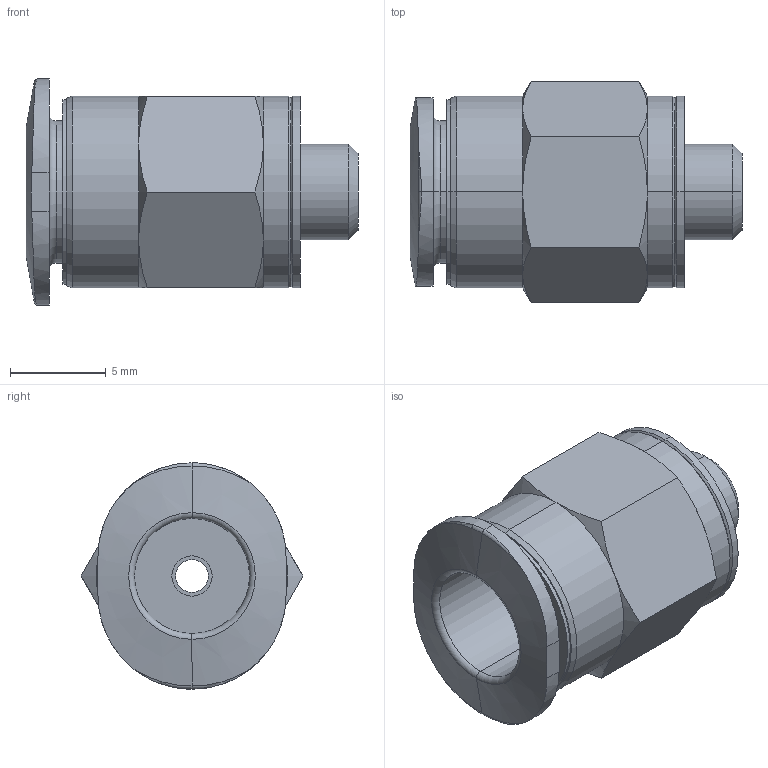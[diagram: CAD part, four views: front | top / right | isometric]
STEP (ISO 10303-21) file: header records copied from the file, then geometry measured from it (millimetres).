
FILE_DESCRIPTION (( 'STEP AP203' ), '1' );
FILE_NAME ('14010009.STEP', '2016-11-16T16:41:11', ( '' ), ( '' ), 'SwSTEP 2.0', 'SolidWorks 2015', '' );
FILE_SCHEMA (( 'CONFIG_CONTROL_DESIGN' ));
Length unit declared in the file: millimetre
Products named in the file (1): 14010009
Bounding box: 17.3 x 11.55 x 11.8 mm (x, y, z)
Volume: 856 mm3; surface area: 1012.7 mm2
Topology: 1 solids, 1 shells, 67 faces, 145 edges, 85 vertices
Faces by surface type: cone 24, cylinder 21, plane 15, torus 7
Entity records: 2024 total; most frequent: CARTESIAN_POINT 502, DIRECTION 315, ORIENTED_EDGE 290, EDGE_CURVE 145, AXIS2_PLACEMENT_3D 136, VERTEX_POINT 85, EDGE_LOOP 74, CIRCLE 68
